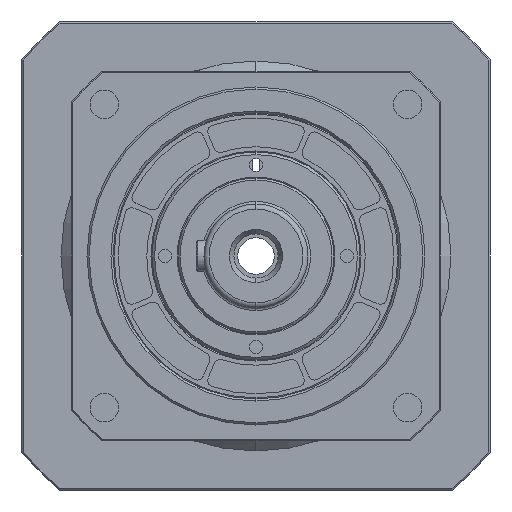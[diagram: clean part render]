
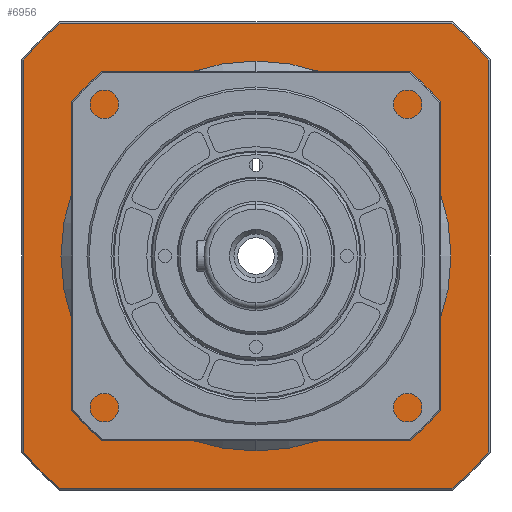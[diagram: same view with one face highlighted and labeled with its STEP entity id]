
A CAD part, left-side view. The second image highlights one B-rep face of the part: STEP entity #6956.
In plain terms, the highlighted planar face has unit normal (-1, 0, 0).
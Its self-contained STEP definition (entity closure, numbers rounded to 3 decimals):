
#438 = EDGE_LOOP ( 'NONE', ( #5503, #5028, #5513, #5520, #5509, #5501, #5387, #5027 ) ) ;
#440 = EDGE_LOOP ( 'NONE', ( #5507, #5512 ) ) ;
#2171 = CARTESIAN_POINT ( 'NONE',  ( 315., -75.54, -89.5 ) ) ;
#2234 = DIRECTION ( 'NONE',  ( 0., -1., 0. ) ) ;
#2399 = CARTESIAN_POINT ( 'NONE',  ( 315., 0., 0. ) ) ;
#2400 = DIRECTION ( 'NONE',  ( -1., 0., 0. ) ) ;
#2402 = DIRECTION ( 'NONE',  ( 0., 0., 1. ) ) ;
#2572 = DIRECTION ( 'NONE',  ( 1., 0., 0. ) ) ;
#2573 = DIRECTION ( 'NONE',  ( 0., 0., 1. ) ) ;
#2579 = CARTESIAN_POINT ( 'NONE',  ( 315., 0., 0. ) ) ;
#2662 = CARTESIAN_POINT ( 'NONE',  ( 315., 0., 0. ) ) ;
#2741 = DIRECTION ( 'NONE',  ( 0., 0., 1. ) ) ;
#2744 = DIRECTION ( 'NONE',  ( -1., 0., 0. ) ) ;
#5027 = ORIENTED_EDGE ( 'NONE', *, *, #12067, .T. ) ;
#5028 = ORIENTED_EDGE ( 'NONE', *, *, #11895, .T. ) ;
#5387 = ORIENTED_EDGE ( 'NONE', *, *, #12179, .T. ) ;
#5501 = ORIENTED_EDGE ( 'NONE', *, *, #11754, .T. ) ;
#5503 = ORIENTED_EDGE ( 'NONE', *, *, #11763, .T. ) ;
#5507 = ORIENTED_EDGE ( 'NONE', *, *, #12107, .T. ) ;
#5509 = ORIENTED_EDGE ( 'NONE', *, *, #12172, .T. ) ;
#5512 = ORIENTED_EDGE ( 'NONE', *, *, #11839, .T. ) ;
#5513 = ORIENTED_EDGE ( 'NONE', *, *, #11928, .T. ) ;
#5520 = ORIENTED_EDGE ( 'NONE', *, *, #11778, .T. ) ;
#6956 = ADVANCED_FACE ( 'NONE', ( #16071, #16070 ), #13140, .T. ) ;
#7429 = CARTESIAN_POINT ( 'NONE',  ( 315., 75.357, 89.5 ) ) ;
#7935 = DIRECTION ( 'NONE',  ( 0., 0., 1. ) ) ;
#7945 = DIRECTION ( 'NONE',  ( 1., 0., 0. ) ) ;
#7953 = CARTESIAN_POINT ( 'NONE',  ( 315., 0., 0. ) ) ;
#8132 = AXIS2_PLACEMENT_3D ( 'NONE', #2399, #2400, #2402 ) ;
#8337 = AXIS2_PLACEMENT_3D ( 'NONE', #2662, #2744, #2741 ) ;
#8384 = AXIS2_PLACEMENT_3D ( 'NONE', #2579, #2572, #2573 ) ;
#8442 = AXIS2_PLACEMENT_3D ( 'NONE', #9946, #9944, #9941 ) ;
#8458 = AXIS2_PLACEMENT_3D ( 'NONE', #10121, #10119, #10116 ) ;
#8771 = DIRECTION ( 'NONE',  ( 0., 1., 0. ) ) ;
#8773 = CARTESIAN_POINT ( 'NONE',  ( 315., 75.54, 89.5 ) ) ;
#8815 = DIRECTION ( 'NONE',  ( 0., 0., 1. ) ) ;
#8816 = CARTESIAN_POINT ( 'NONE',  ( 315., -89.5, 75.54 ) ) ;
#8894 = AXIS2_PLACEMENT_3D ( 'NONE', #7953, #7945, #7935 ) ;
#9479 = AXIS2_PLACEMENT_3D ( 'NONE', #13164, #13161, #13163 ) ;
#9941 = DIRECTION ( 'NONE',  ( 0., 0., 1. ) ) ;
#9944 = DIRECTION ( 'NONE',  ( -1., 0., 0. ) ) ;
#9946 = CARTESIAN_POINT ( 'NONE',  ( 315., 0., 0. ) ) ;
#10047 = DIRECTION ( 'NONE',  ( 0., 0., -1. ) ) ;
#10049 = CARTESIAN_POINT ( 'NONE',  ( 315., 89.5, -75.54 ) ) ;
#10116 = DIRECTION ( 'NONE',  ( 0., 0., 1. ) ) ;
#10119 = DIRECTION ( 'NONE',  ( -1., 0., 0. ) ) ;
#10121 = CARTESIAN_POINT ( 'NONE',  ( 315., 0., 0. ) ) ;
#10197 = VECTOR ( 'NONE', #2234, 1000. ) ;
#10200 = LINE ( 'NONE', #10049, #10889 ) ;
#10210 = LINE ( 'NONE', #2171, #10197 ) ;
#10619 = CIRCLE ( 'NONE', #8337, 117. ) ;
#10752 = CIRCLE ( 'NONE', #8384, 63. ) ;
#10796 = CIRCLE ( 'NONE', #8458, 117. ) ;
#10839 = CIRCLE ( 'NONE', #8442, 117. ) ;
#10889 = VECTOR ( 'NONE', #10047, 1000. ) ;
#11754 = EDGE_CURVE ( 'NONE', #17149, #17037, #10796, .T. ) ;
#11763 = EDGE_CURVE ( 'NONE', #17015, #17109, #10200, .T. ) ;
#11778 = EDGE_CURVE ( 'NONE', #17246, #17327, #10839, .T. ) ;
#11839 = EDGE_CURVE ( 'NONE', #17341, #17052, #10752, .T. ) ;
#11895 = EDGE_CURVE ( 'NONE', #17109, #17130, #10619, .T. ) ;
#11928 = EDGE_CURVE ( 'NONE', #17130, #17246, #10210, .T. ) ;
#12067 = EDGE_CURVE ( 'NONE', #16738, #17015, #14165, .T. ) ;
#12107 = EDGE_CURVE ( 'NONE', #17052, #17341, #14109, .T. ) ;
#12172 = EDGE_CURVE ( 'NONE', #17327, #17149, #14033, .T. ) ;
#12179 = EDGE_CURVE ( 'NONE', #17037, #16738, #14023, .T. ) ;
#13140 = PLANE ( 'NONE',  #9479 ) ;
#13161 = DIRECTION ( 'NONE',  ( -1., 0., 0. ) ) ;
#13163 = DIRECTION ( 'NONE',  ( 0., 0., 1. ) ) ;
#13164 = CARTESIAN_POINT ( 'NONE',  ( 315., 90., -90. ) ) ;
#13395 = CARTESIAN_POINT ( 'NONE',  ( 315., 89.5, 75.357 ) ) ;
#13492 = CARTESIAN_POINT ( 'NONE',  ( 315., -89.5, 75.357 ) ) ;
#13511 = CARTESIAN_POINT ( 'NONE',  ( 315., 0., -63. ) ) ;
#13529 = CARTESIAN_POINT ( 'NONE',  ( 315., -89.5, -75.357 ) ) ;
#13615 = CARTESIAN_POINT ( 'NONE',  ( 315., -75.357, -89.5 ) ) ;
#13698 = CARTESIAN_POINT ( 'NONE',  ( 315., 0., 63. ) ) ;
#13743 = CARTESIAN_POINT ( 'NONE',  ( 315., -75.357, 89.5 ) ) ;
#13785 = CARTESIAN_POINT ( 'NONE',  ( 315., 75.357, -89.5 ) ) ;
#13805 = CARTESIAN_POINT ( 'NONE',  ( 315., 89.5, -75.357 ) ) ;
#14021 = VECTOR ( 'NONE', #8771, 1000. ) ;
#14023 = LINE ( 'NONE', #8773, #14021 ) ;
#14031 = VECTOR ( 'NONE', #8815, 1000. ) ;
#14033 = LINE ( 'NONE', #8816, #14031 ) ;
#14109 = CIRCLE ( 'NONE', #8894, 63. ) ;
#14165 = CIRCLE ( 'NONE', #8132, 117. ) ;
#16070 = FACE_BOUND ( 'NONE', #440, .T. ) ;
#16071 = FACE_OUTER_BOUND ( 'NONE', #438, .T. ) ;
#16738 = VERTEX_POINT ( 'NONE', #7429 ) ;
#17015 = VERTEX_POINT ( 'NONE', #13395 ) ;
#17037 = VERTEX_POINT ( 'NONE', #13743 ) ;
#17052 = VERTEX_POINT ( 'NONE', #13698 ) ;
#17109 = VERTEX_POINT ( 'NONE', #13805 ) ;
#17130 = VERTEX_POINT ( 'NONE', #13785 ) ;
#17149 = VERTEX_POINT ( 'NONE', #13492 ) ;
#17246 = VERTEX_POINT ( 'NONE', #13615 ) ;
#17327 = VERTEX_POINT ( 'NONE', #13529 ) ;
#17341 = VERTEX_POINT ( 'NONE', #13511 ) ;
